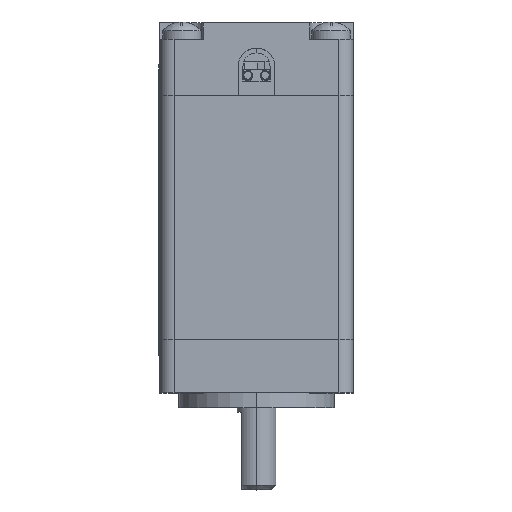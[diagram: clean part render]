
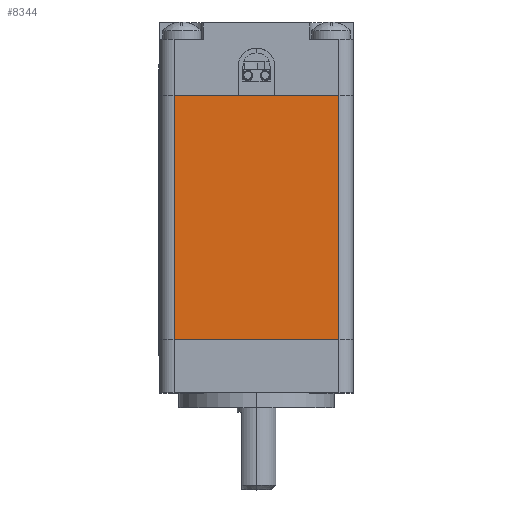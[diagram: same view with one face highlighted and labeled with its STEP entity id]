
A CAD part, top view. The second image highlights one B-rep face of the part: STEP entity #8344.
In plain terms, the highlighted planar face has unit normal (0, 0, 1).
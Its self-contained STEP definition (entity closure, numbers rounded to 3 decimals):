
#796=CARTESIAN_POINT('',(-7.036,28.17,30.));
#797=VERTEX_POINT('',#796);
#831=CARTESIAN_POINT('',(9.964,28.17,30.));
#832=VERTEX_POINT('',#831);
#4632=CARTESIAN_POINT('',(-7.036,2.97,30.));
#4633=VERTEX_POINT('',#4632);
#4641=CARTESIAN_POINT('',(9.964,2.97,30.));
#4642=VERTEX_POINT('',#4641);
#8313=CARTESIAN_POINT('',(-7.036,2.97,30.));
#8314=DIRECTION('',(1.,0.,0.));
#8315=DIRECTION('',(0.,0.,1.));
#8316=AXIS2_PLACEMENT_3D('',#8313,#8315,#8314);
#8317=PLANE('',#8316);
#8318=CARTESIAN_POINT('',(-7.036,2.97,30.));
#8319=DIRECTION('',(1.,0.,0.));
#8320=VECTOR('',#8319,17.);
#8321=LINE('',#8318,#8320);
#8322=EDGE_CURVE('',#4633,#4642,#8321,.T.);
#8323=ORIENTED_EDGE('E1022',*,*,#8322,.T.);
#8324=CARTESIAN_POINT('',(9.964,2.97,30.));
#8325=DIRECTION('',(0.,1.,0.));
#8326=VECTOR('',#8325,25.2);
#8327=LINE('',#8324,#8326);
#8328=EDGE_CURVE('',#4642,#832,#8327,.T.);
#8329=ORIENTED_EDGE('E1023',*,*,#8328,.T.);
#8330=CARTESIAN_POINT('',(9.964,28.17,30.));
#8331=DIRECTION('',(-1.,0.,0.));
#8332=VECTOR('',#8331,17.);
#8333=LINE('',#8330,#8332);
#8334=EDGE_CURVE('',#832,#797,#8333,.T.);
#8335=ORIENTED_EDGE('E1024',*,*,#8334,.T.);
#8336=CARTESIAN_POINT('',(-7.036,28.17,30.));
#8337=DIRECTION('',(0.,-1.,0.));
#8338=VECTOR('',#8337,25.2);
#8339=LINE('',#8336,#8338);
#8340=EDGE_CURVE('',#797,#4633,#8339,.T.);
#8341=ORIENTED_EDGE('E1025',*,*,#8340,.T.);
#8342=EDGE_LOOP('',(#8323,#8329,#8335,#8341));
#8343=FACE_OUTER_BOUND('',#8342,.T.);
#8344=ADVANCED_FACE('F239',(#8343),#8317,.T.);
